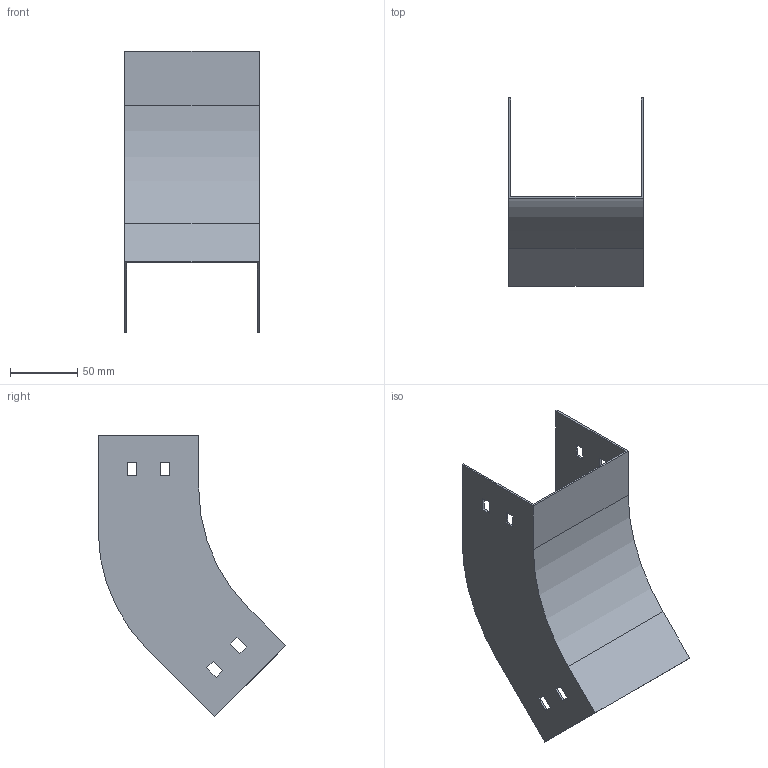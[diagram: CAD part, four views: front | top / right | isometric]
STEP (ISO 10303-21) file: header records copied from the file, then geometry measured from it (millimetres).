
FILE_DESCRIPTION (( 'STEP AP214' ), '1' );
FILE_NAME ('D4_107.step', '2025-07-16T09:06:53', ( '' ), ( '' ), 'SwSTEP 2.0', 'SolidWorks 2023', '' );
FILE_SCHEMA (( 'AUTOMOTIVE_DESIGN' ));
Length unit declared in the file: millimetre
Products named in the file (1): D4_107
Bounding box: 100 x 139.9 x 209.71 mm (x, y, z)
Volume: 73459.5 mm3; surface area: 99814.2 mm2
Topology: 1 solids, 1 shells, 50 faces, 144 edges, 96 vertices
Faces by surface type: plane 46, cylinder 4
Entity records: 1671 total; most frequent: CARTESIAN_POINT 291, ORIENTED_EDGE 288, DIRECTION 254, EDGE_CURVE 144, VECTOR 136, LINE 136, VERTEX_POINT 96, EDGE_LOOP 66
